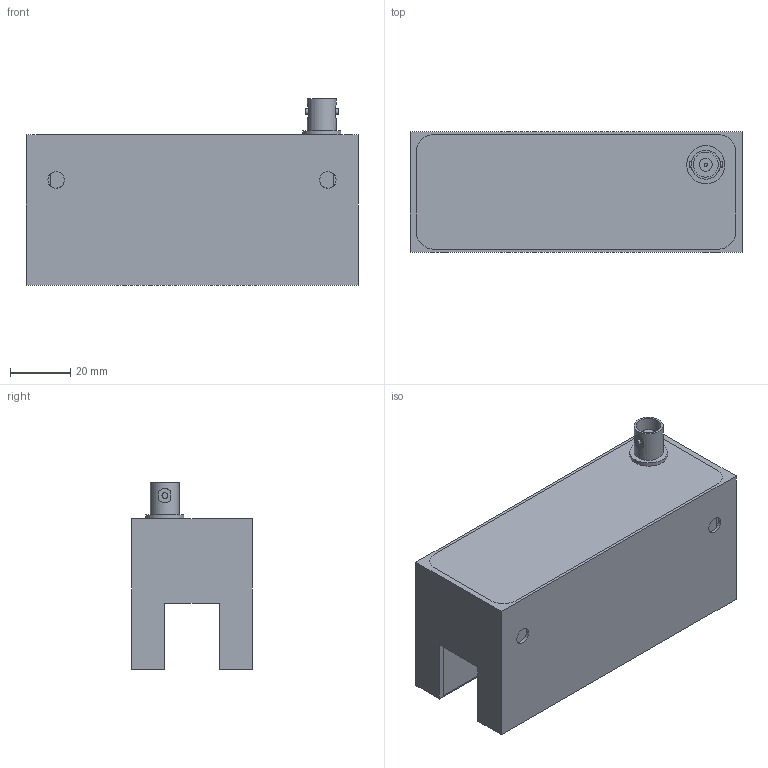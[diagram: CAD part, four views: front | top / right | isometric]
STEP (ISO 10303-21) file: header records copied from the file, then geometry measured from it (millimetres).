
FILE_DESCRIPTION((''),'2;1');
FILE_NAME('F:\daten\PRODUKTE\TELEMETR\A\Mechanik\CAD\9D\Antenne_9D.stp','2013-04-09T08:30:55',('marquardt'),(''),'Autodesk Inventor 2011','Autodesk Inventor 2011','');
FILE_SCHEMA(('AUTOMOTIVE_DESIGN { 1 0 10303 214 1 1 1 1 }'));
Products named in the file (5): Antenne_9D; Antennengehaeuse_9D; Verguß; SW3dPS-BNC Panel Mount; ISO 7046-1 H M2,5 x 3 - 4.8 - H
Assembly tree (4 placements, depth 2):
  Antenne_9D
    Antennengehaeuse_9D
    Verguß
    SW3dPS-BNC Panel Mount
    ISO 7046-1 H M2,5 x 3 - 4.8 - H
Bounding box: 110 x 40 x 61.95 mm (x, y, z)
Volume: 180268 mm3; surface area: 58870.6 mm2
Topology: 4 solids, 4 shells, 100 faces, 247 edges, 163 vertices
Faces by surface type: plane 51, cylinder 30, cone 15, torus 4
Full cylindrical faces by diameter (mm): 0.686 x1, 1.067 x1, 1.88 x2, 2.108 x1, 2.224 x1, 2.5 x1, 2.7 x1, 4.318 x1, 4.7 x1, 5 x1, 5.359 x1, 5.5 x2, 8.255 x1, 9.423 x1, 9.614 x1, 12.637 x1
Entity records: 3131 total; most frequent: CARTESIAN_POINT 696, DIRECTION 478, ORIENTED_EDGE 430, EDGE_CURVE 215, AXIS2_PLACEMENT_3D 184, VERTEX_POINT 157, EDGE_LOOP 142, VECTOR 110
